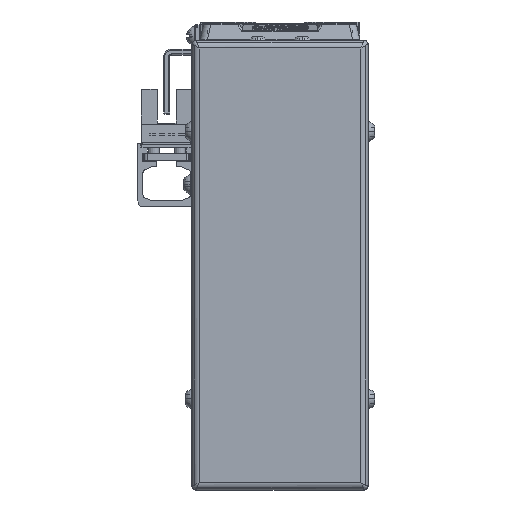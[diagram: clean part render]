
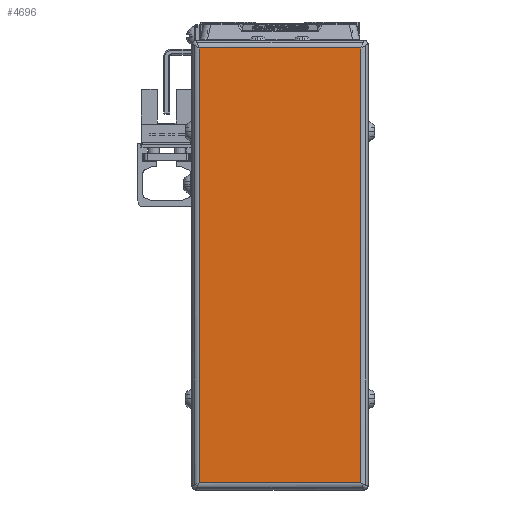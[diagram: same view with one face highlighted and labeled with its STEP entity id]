
A CAD part, left-side view. The second image highlights one B-rep face of the part: STEP entity #4696.
In plain terms, the highlighted planar face has unit normal (-1, 0, 0).
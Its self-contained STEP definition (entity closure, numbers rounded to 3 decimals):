
#4696=ADVANCED_FACE('',(#10620),#10621,.T.);
#10620=FACE_OUTER_BOUND('',#19790,.T.);
#10621=PLANE('',#19791);
#19790=EDGE_LOOP('',(#34357,#34358,#34359,#34360));
#19791=AXIS2_PLACEMENT_3D('',#34361,#34362,#34363);
#34357=ORIENTED_EDGE('',*,*,#51449,.F.);
#34358=ORIENTED_EDGE('',*,*,#51450,.F.);
#34359=ORIENTED_EDGE('',*,*,#51451,.F.);
#34360=ORIENTED_EDGE('',*,*,#51452,.F.);
#34361=CARTESIAN_POINT('',(-48.,0.,-42.5));
#34362=DIRECTION('',(-1.0,0.,0.));
#34363=DIRECTION('',(0.,0.,1.0));
#51449=EDGE_CURVE('',#62820,#60651,#62821,.T.);
#51450=EDGE_CURVE('',#59047,#62820,#62822,.T.);
#51451=EDGE_CURVE('',#55100,#59047,#62823,.T.);
#51452=EDGE_CURVE('',#60651,#55100,#62824,.T.);
#55100=VERTEX_POINT('',#67272);
#59047=VERTEX_POINT('',#73098);
#60651=VERTEX_POINT('',#75312);
#62820=VERTEX_POINT('',#78425);
#62821=LINE('',#78426,#78427);
#62822=LINE('',#78428,#78429);
#62823=LINE('',#78430,#78431);
#62824=LINE('',#78432,#78433);
#67272=CARTESIAN_POINT('',(-48.,-21.7,-101.0));
#73098=CARTESIAN_POINT('',(-48.,21.7,-101.0));
#75312=CARTESIAN_POINT('',(-48.,-21.7,16.));
#78425=CARTESIAN_POINT('',(-48.,21.7,16.));
#78426=CARTESIAN_POINT('',(-48.,0.,16.));
#78427=VECTOR('',#90824,10.0);
#78428=CARTESIAN_POINT('',(-48.,21.7,-42.5));
#78429=VECTOR('',#90825,10.0);
#78430=CARTESIAN_POINT('',(-48.,0.,-101.0));
#78431=VECTOR('',#90826,10.0);
#78432=CARTESIAN_POINT('',(-48.,-21.7,-42.5));
#78433=VECTOR('',#90827,10.0);
#90824=DIRECTION('',(0.,-1.0,0.));
#90825=DIRECTION('',(0.,0.,1.0));
#90826=DIRECTION('',(0.,1.0,0.));
#90827=DIRECTION('',(0.,0.,-1.0));
